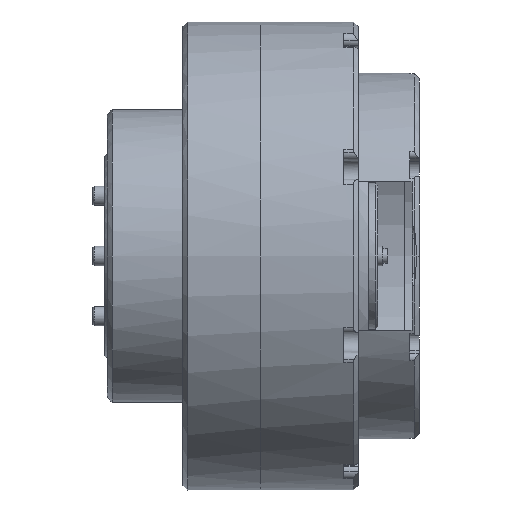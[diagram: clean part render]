
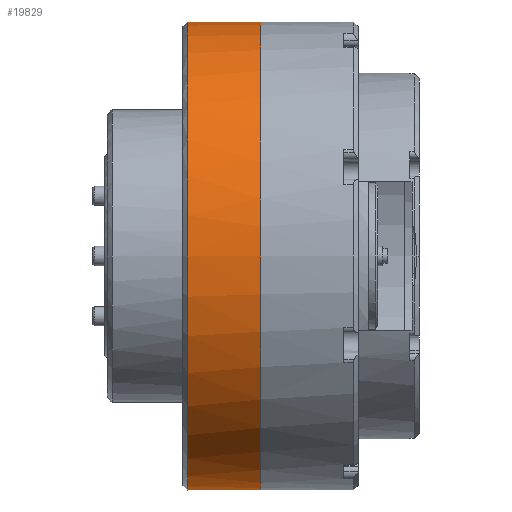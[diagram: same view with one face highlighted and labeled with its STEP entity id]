
A CAD part, front view. The second image highlights one B-rep face of the part: STEP entity #19829.
In plain terms, the highlighted cylindrical face has radius 48 mm (diameter 96 mm), a partial arc.
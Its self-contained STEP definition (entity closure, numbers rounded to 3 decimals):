
#20 = EDGE_CURVE ( 'NONE', #10520, #26177, #17977, .T. ) ;
#136 = CARTESIAN_POINT ( 'NONE',  ( 329.417, 8.16, 15.466 ) ) ;
#512 = FACE_OUTER_BOUND ( 'NONE', #16109, .T. ) ;
#555 = DIRECTION ( 'NONE',  ( 1., 0., 0. ) ) ;
#716 = CARTESIAN_POINT ( 'NONE',  ( 329.417, 15.543, -29.279 ) ) ;
#749 = DIRECTION ( 'NONE',  ( 0., 0., -1. ) ) ;
#908 = CARTESIAN_POINT ( 'NONE',  ( 329.417, 38.242, -45.548 ) ) ;
#1960 = VERTEX_POINT ( 'NONE', #8881 ) ;
#2225 = CARTESIAN_POINT ( 'NONE',  ( 329.417, 10.564, 21.271 ) ) ;
#2414 = CARTESIAN_POINT ( 'NONE',  ( 329.417, 7.244, 12.446 ) ) ;
#3238 = EDGE_CURVE ( 'NONE', #10520, #6214, #15657, .T. ) ;
#3389 = CARTESIAN_POINT ( 'NONE',  ( 329.417, 41.263, -46.465 ) ) ;
#3972 = CARTESIAN_POINT ( 'NONE',  ( 329.417, 53.708, 48. ) ) ;
#4085 = B_SPLINE_CURVE_WITH_KNOTS ( 'NONE', 3,
 ( #8381, #29656, #18635, #28364, #4703, #16547, #9442, #11826, #23411, #14189, #25903, #30542, #2225, #136, #2414, #9343, #4504, #23712 ),
 .UNSPECIFIED., .F., .F.,
 ( 4, 2, 2, 2, 2, 2, 2, 2, 4 ),
 ( 0.5, 0.563, 0.625, 0.688, 0.75, 0.813, 0.875, 0.938, 1. ),
 .UNSPECIFIED. ) ;
#4221 = CYLINDRICAL_SURFACE ( 'NONE', #19539, 48. ) ;
#4504 = CARTESIAN_POINT ( 'NONE',  ( 329.417, 5.708, 3.142 ) ) ;
#4593 = EDGE_CURVE ( 'NONE', #6214, #1960, #4085, .T. ) ;
#4703 = CARTESIAN_POINT ( 'NONE',  ( 329.417, 38.242, 45.548 ) ) ;
#5485 = CARTESIAN_POINT ( 'NONE',  ( 329.417, 50.567, -48. ) ) ;
#5583 = CARTESIAN_POINT ( 'NONE',  ( 329.417, 7.244, -12.446 ) ) ;
#6214 = VERTEX_POINT ( 'NONE', #3972 ) ;
#7095 = AXIS2_PLACEMENT_3D ( 'NONE', #26594, #19551, #749 ) ;
#7418 = ORIENTED_EDGE ( 'NONE', *, *, #20, .T. ) ;
#7569 = CARTESIAN_POINT ( 'NONE',  ( 325.417, 53.708, 48. ) ) ;
#7919 = VECTOR ( 'NONE', #26482, 1000. ) ;
#8057 = CARTESIAN_POINT ( 'NONE',  ( 329.417, 24.429, -38.165 ) ) ;
#8381 = CARTESIAN_POINT ( 'NONE',  ( 329.417, 53.708, 48. ) ) ;
#8881 = CARTESIAN_POINT ( 'NONE',  ( 329.417, 5.708, 0. ) ) ;
#9343 = CARTESIAN_POINT ( 'NONE',  ( 329.417, 6.018, 6.283 ) ) ;
#9442 = CARTESIAN_POINT ( 'NONE',  ( 329.417, 29.653, 41.656 ) ) ;
#9846 = CARTESIAN_POINT ( 'NONE',  ( 314.417, 53.708, -48. ) ) ;
#10107 = CARTESIAN_POINT ( 'NONE',  ( 329.417, 6.018, -6.283 ) ) ;
#10520 = VERTEX_POINT ( 'NONE', #13029 ) ;
#10613 = VERTEX_POINT ( 'NONE', #25313 ) ;
#11826 = CARTESIAN_POINT ( 'NONE',  ( 329.417, 24.429, 38.165 ) ) ;
#12498 = CARTESIAN_POINT ( 'NONE',  ( 329.417, 21.989, -36.163 ) ) ;
#12599 = CARTESIAN_POINT ( 'NONE',  ( 329.417, 12.052, -24.055 ) ) ;
#12697 = LINE ( 'NONE', #26498, #24530 ) ;
#13029 = CARTESIAN_POINT ( 'NONE',  ( 314.417, 53.708, 48. ) ) ;
#13737 = B_SPLINE_CURVE_WITH_KNOTS ( 'NONE', 3,
 ( #17414, #19726, #10107, #5583, #24473, #14846, #12599, #716, #24379, #12498, #8057, #17213, #19622, #908, #3389, #29034, #5485, #17318 ),
 .UNSPECIFIED., .F., .F.,
 ( 4, 2, 2, 2, 2, 2, 2, 2, 4 ),
 ( 0., 0.062, 0.125, 0.187, 0.25, 0.313, 0.375, 0.438, 0.5 ),
 .UNSPECIFIED. ) ;
#14189 = CARTESIAN_POINT ( 'NONE',  ( 329.417, 17.546, 31.72 ) ) ;
#14846 = CARTESIAN_POINT ( 'NONE',  ( 329.417, 10.564, -21.271 ) ) ;
#15333 = DIRECTION ( 'NONE',  ( 0., 0., -1. ) ) ;
#15657 = LINE ( 'NONE', #7569, #7919 ) ;
#16109 = EDGE_LOOP ( 'NONE', ( #16425, #7418, #25624, #27812, #18393 ) ) ;
#16425 = ORIENTED_EDGE ( 'NONE', *, *, #3238, .F. ) ;
#16547 = CARTESIAN_POINT ( 'NONE',  ( 329.417, 32.437, 43.144 ) ) ;
#17213 = CARTESIAN_POINT ( 'NONE',  ( 329.417, 29.653, -41.656 ) ) ;
#17318 = CARTESIAN_POINT ( 'NONE',  ( 329.417, 53.708, -48. ) ) ;
#17414 = CARTESIAN_POINT ( 'NONE',  ( 329.417, 5.708, 0. ) ) ;
#17977 = CIRCLE ( 'NONE', #7095, 48. ) ;
#18393 = ORIENTED_EDGE ( 'NONE', *, *, #4593, .F. ) ;
#18635 = CARTESIAN_POINT ( 'NONE',  ( 329.417, 47.425, 47.691 ) ) ;
#19539 = AXIS2_PLACEMENT_3D ( 'NONE', #24561, #30034, #15333 ) ;
#19551 = DIRECTION ( 'NONE',  ( 1., 0., 0. ) ) ;
#19622 = CARTESIAN_POINT ( 'NONE',  ( 329.417, 32.437, -43.144 ) ) ;
#19726 = CARTESIAN_POINT ( 'NONE',  ( 329.417, 5.708, -3.142 ) ) ;
#19829 = ADVANCED_FACE ( 'NONE', ( #512 ), #4221, .T. ) ;
#23411 = CARTESIAN_POINT ( 'NONE',  ( 329.417, 21.989, 36.163 ) ) ;
#23712 = CARTESIAN_POINT ( 'NONE',  ( 329.417, 5.708, 0. ) ) ;
#24379 = CARTESIAN_POINT ( 'NONE',  ( 329.417, 17.546, -31.72 ) ) ;
#24473 = CARTESIAN_POINT ( 'NONE',  ( 329.417, 8.16, -15.466 ) ) ;
#24530 = VECTOR ( 'NONE', #555, 1000. ) ;
#24561 = CARTESIAN_POINT ( 'NONE',  ( 325.417, 53.708, 0. ) ) ;
#25313 = CARTESIAN_POINT ( 'NONE',  ( 329.417, 53.708, -48. ) ) ;
#25624 = ORIENTED_EDGE ( 'NONE', *, *, #30678, .T. ) ;
#25903 = CARTESIAN_POINT ( 'NONE',  ( 329.417, 15.543, 29.279 ) ) ;
#26177 = VERTEX_POINT ( 'NONE', #9846 ) ;
#26482 = DIRECTION ( 'NONE',  ( 1., 0., 0. ) ) ;
#26498 = CARTESIAN_POINT ( 'NONE',  ( 325.417, 53.708, -48. ) ) ;
#26594 = CARTESIAN_POINT ( 'NONE',  ( 314.417, 53.708, 0. ) ) ;
#27812 = ORIENTED_EDGE ( 'NONE', *, *, #29661, .F. ) ;
#28364 = CARTESIAN_POINT ( 'NONE',  ( 329.417, 41.263, 46.465 ) ) ;
#29034 = CARTESIAN_POINT ( 'NONE',  ( 329.417, 47.425, -47.691 ) ) ;
#29656 = CARTESIAN_POINT ( 'NONE',  ( 329.417, 50.567, 48. ) ) ;
#29661 = EDGE_CURVE ( 'NONE', #1960, #10613, #13737, .T. ) ;
#30034 = DIRECTION ( 'NONE',  ( 1., 0., 0. ) ) ;
#30542 = CARTESIAN_POINT ( 'NONE',  ( 329.417, 12.052, 24.055 ) ) ;
#30678 = EDGE_CURVE ( 'NONE', #26177, #10613, #12697, .T. ) ;
